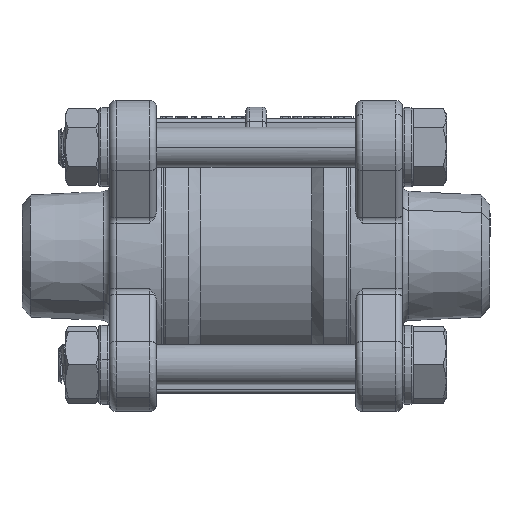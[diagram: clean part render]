
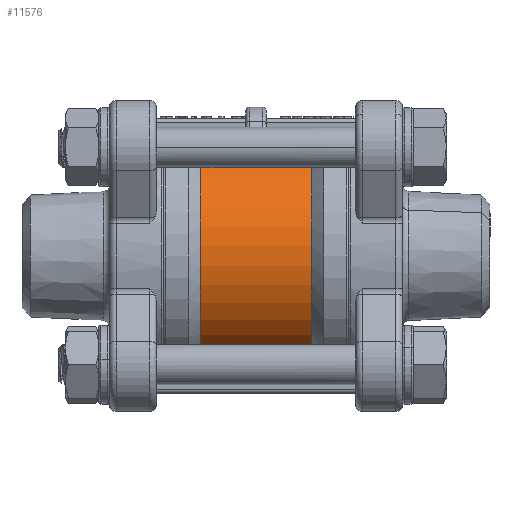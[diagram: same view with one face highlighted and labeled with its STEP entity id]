
A CAD part, front view. The second image highlights one B-rep face of the part: STEP entity #11576.
In plain terms, the highlighted cylindrical face has radius 17 mm (diameter 34 mm), a partial arc.
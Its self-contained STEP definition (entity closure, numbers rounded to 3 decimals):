
#11574 = EDGE_CURVE ( 'NONE', #15306, #15432, #71479, .T. ) ;
#11576 = ADVANCED_FACE ( 'NONE', ( #71475 ), #71474, .T. ) ;
#11577 = EDGE_LOOP ( 'NONE', ( #11578, #11636, #11637, #11638 ) ) ;
#11578 = ORIENTED_EDGE ( 'NONE', *, *, #11635, .T. ) ;
#11635 = EDGE_CURVE ( 'NONE', #15292, #15437, #71677, .T. ) ;
#11636 = ORIENTED_EDGE ( 'NONE', *, *, #15430, .T. ) ;
#11637 = ORIENTED_EDGE ( 'NONE', *, *, #11574, .F. ) ;
#11638 = ORIENTED_EDGE ( 'NONE', *, *, #15365, .F. ) ;
#15292 = VERTEX_POINT ( 'NONE', #84463 ) ;
#15306 = VERTEX_POINT ( 'NONE', #84494 ) ;
#15365 = EDGE_CURVE ( 'NONE', #15292, #15306, #84654, .T. ) ;
#15430 = EDGE_CURVE ( 'NONE', #15437, #15432, #84822, .T. ) ;
#15432 = VERTEX_POINT ( 'NONE', #84812 ) ;
#15437 = VERTEX_POINT ( 'NONE', #84805 ) ;
#71472 = CARTESIAN_POINT ( 'NONE',  ( -52.21, 0., 0. ) ) ;
#71473 = AXIS2_PLACEMENT_3D ( 'NONE', #71472, #71534, #71533 ) ;
#71474 = CYLINDRICAL_SURFACE ( 'NONE', #71473, 17. ) ;
#71475 = FACE_OUTER_BOUND ( 'NONE', #11577, .T. ) ;
#71476 = DIRECTION ( 'NONE',  ( 1., 0., 0. ) ) ;
#71477 = VECTOR ( 'NONE', #71476, 1000. ) ;
#71478 = CARTESIAN_POINT ( 'NONE',  ( -52.21, -7.51, 15.251 ) ) ;
#71479 = LINE ( 'NONE', #71478, #71477 ) ;
#71533 = DIRECTION ( 'NONE',  ( 0., 0., 1. ) ) ;
#71534 = DIRECTION ( 'NONE',  ( -1., 0., 0. ) ) ;
#71674 = DIRECTION ( 'NONE',  ( 1., 0., 0. ) ) ;
#71675 = VECTOR ( 'NONE', #71674, 1000. ) ;
#71676 = CARTESIAN_POINT ( 'NONE',  ( -52.21, -7.51, -15.251 ) ) ;
#71677 = LINE ( 'NONE', #71676, #71675 ) ;
#84463 = CARTESIAN_POINT ( 'NONE',  ( -8.35, -7.51, -15.251 ) ) ;
#84494 = CARTESIAN_POINT ( 'NONE',  ( -8.35, -7.51, 15.251 ) ) ;
#84650 = DIRECTION ( 'NONE',  ( 0., 0., 1. ) ) ;
#84651 = DIRECTION ( 'NONE',  ( -1., 0., 0. ) ) ;
#84652 = CARTESIAN_POINT ( 'NONE',  ( -8.35, 0., 0. ) ) ;
#84653 = AXIS2_PLACEMENT_3D ( 'NONE', #84652, #84651, #84650 ) ;
#84654 = CIRCLE ( 'NONE', #84653, 17. ) ;
#84805 = CARTESIAN_POINT ( 'NONE',  ( 8.35, -7.51, -15.251 ) ) ;
#84812 = CARTESIAN_POINT ( 'NONE',  ( 8.35, -7.51, 15.251 ) ) ;
#84814 = DIRECTION ( 'NONE',  ( 0., 0., 1. ) ) ;
#84815 = DIRECTION ( 'NONE',  ( -1., 0., 0. ) ) ;
#84816 = CARTESIAN_POINT ( 'NONE',  ( 8.35, 0., 0. ) ) ;
#84817 = AXIS2_PLACEMENT_3D ( 'NONE', #84816, #84815, #84814 ) ;
#84822 = CIRCLE ( 'NONE', #84817, 17. ) ;
